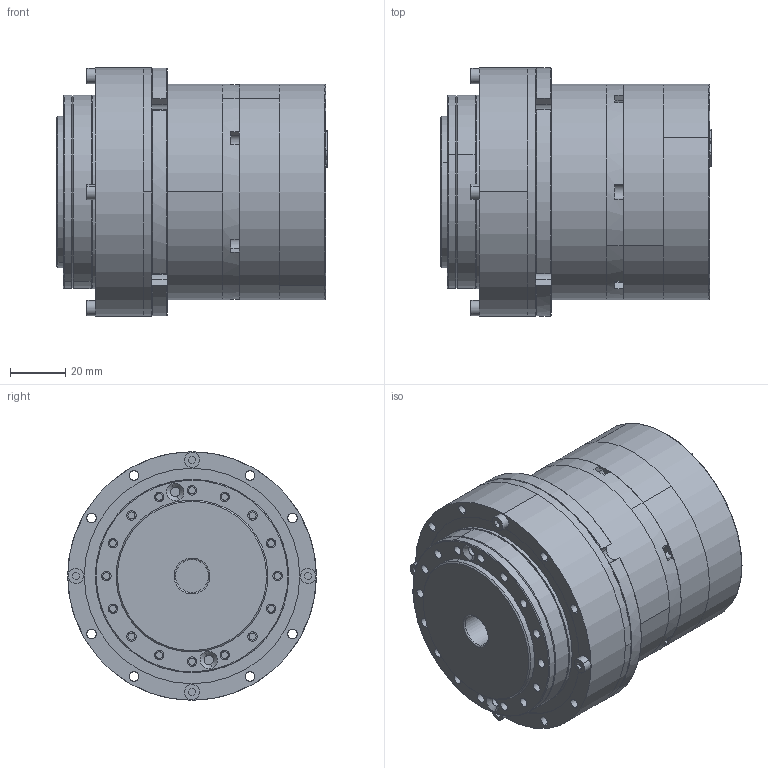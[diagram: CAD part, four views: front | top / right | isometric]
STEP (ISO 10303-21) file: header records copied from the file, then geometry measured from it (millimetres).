
FILE_DESCRIPTION (( 'STEP AP203' ), '1' );
FILE_NAME ('1MT.055.025（RH-20-100-E-B 一体化谐波减速模组-双编+抱闸+ECAT）.STEP', '2024-10-30T03:51:15', ( '' ), ( '' ), 'SwSTEP 2.0', 'SolidWorks 2020', '' );
FILE_SCHEMA (( 'CONFIG_CONTROL_DESIGN' ));
Length unit declared in the file: millimetre
Products named in the file (1): 1MT.055.025（RH-20-100-E-B 一体化谐波减速模组-双编+抱闸+ECAT）
Bounding box: 98.06 x 90 x 90 mm (x, y, z)
Surface area: 71595 mm2 (no closed solid volume)
Topology: 0 solids, 63 shells, 646 faces, 2988 edges, 2387 vertices
Faces by surface type: plane 387, cylinder 199, cone 36, bspline 16, torus 8
Entity records: 31137 total; most frequent: CARTESIAN_POINT 6833, DIRECTION 5114, ORIENTED_EDGE 4172, EDGE_CURVE 2988, VERTEX_POINT 2387, VECTOR 1854, LINE 1854, AXIS2_PLACEMENT_3D 1630
